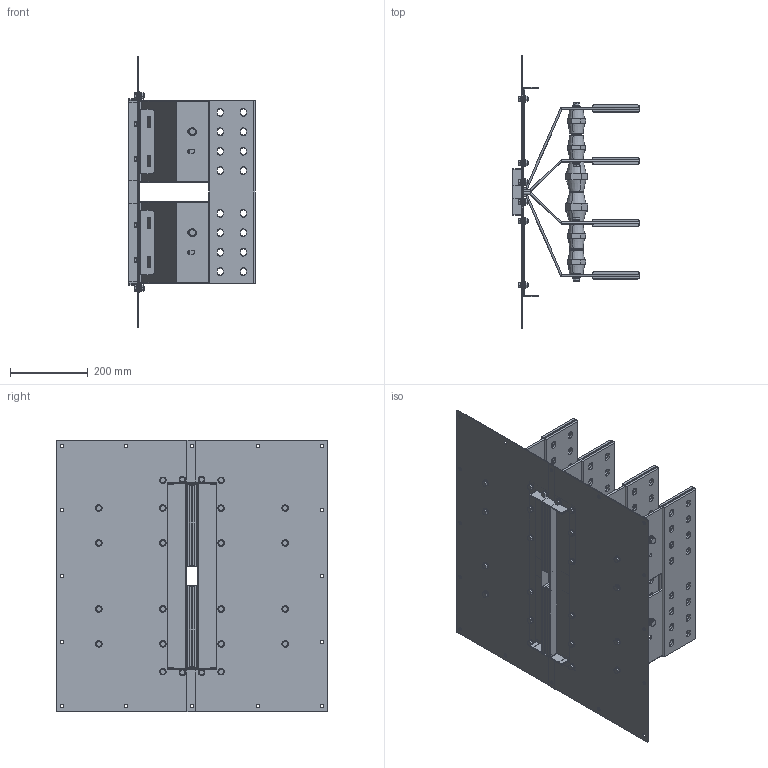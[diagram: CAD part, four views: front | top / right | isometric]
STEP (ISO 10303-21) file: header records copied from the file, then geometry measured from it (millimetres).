
FILE_DESCRIPTION(('CATIA V5 STEP','CAx-IF Rec.Pracs.--- Model Styling and Organization---1.5--- 2016-08-15','CAx-IF Rec.Pracs.---Supplemental Geometry---1.0---2011-11-01','CAx-IF Rec.Pracs.--- Composite Materials ---1.1---2010-07-15'),'2;1');
FILE_NAME('K:\COSCN 2011\32372311_RiduzioneSezioniBarre\03_Studio\__Modelli semplificati\XCP_UB semplificati per studi\XCP-S_UB_4C_Pe_CRT_Assieme\Al\XCP-S_UB_4C_Pe_D_Assieme - 4000A Al\XCP-S_UB_4C_Pe_D_Assieme - 4000A Al_CRT.stp','2025-05-12T12:44:43+00:00',('Utente Bticino'),('Bticino S.p.A.'),'CATIA Version 5-6 Release 2020 SP5','CATIA V5 STEP AP214 v2','none');
FILE_SCHEMA(('AUTOMOTIVE_DESIGN { 1 0 10303 214 1 1 1 1 }'));
Length unit declared in the file: millimetre
Products named in the file (30): XCP-S_UB_4C_Pe_D_Assieme - 4000A Al_CRT; XCP-S_UB_4C_Pe_D_PaccoBarre_4000A Al_CRT; XCP-S_UB_4C_Pe_D_Lamiere_4000A Al_CRT; XCP-S_UB_4C_Pe_D_PaccoBarre_4000A Al_CRT_1; XCP-S_UB_4C_Pe_D - 4000A Al_Bandelle parallelo_CRT; 130006; 130184; 00750033 - RONDELLA PIANA 4.8 D.12 UNI 6592 ZB; Ass_M10x25.1; 00740025 M10x25 UNI5739; Rondella spac M10 UNI 1751; 00750005; 130006_1; 00750033 - RONDELLA PIANA 4.8 D.12 UNI 6592 ZB_1; 130184_1; 130006_2; 00750033 - RONDELLA PIANA 4.8 D.12 UNI 6592 ZB_2; 130006_3; 130006_4; 130184_2; 00750033 - RONDELLA PIANA 4.8 D.12 UNI 6592 ZB_3; 130006_5; 00750033 - RONDELLA PIANA 4.8 D.12 UNI 6592 ZB_4; 130184_3; 130006_6; 00750033 - RONDELLA PIANA 4.8 D.12 UNI 6592 ZB_5; 130006_7; Ass Vite+dado M8; Steel hex flanged SCREW M12x16; Steel hex flanged NUT M8
Assembly tree (63 placements, depth 3):
  XCP-S_UB_4C_Pe_D_Assieme - 4000A Al_CRT
    XCP-S_UB_4C_Pe_D_PaccoBarre_4000A Al_CRT
    XCP-S_UB_4C_Pe_D_Lamiere_4000A Al_CRT
    XCP-S_UB_4C_Pe_D_PaccoBarre_4000A Al_CRT_1
    XCP-S_UB_4C_Pe_D - 4000A Al_Bandelle parallelo_CRT
    130006
    130184
    00750033 - RONDELLA PIANA 4.8 D.12 UNI 6592 ZB
    Ass_M10x25.1  x12
      00740025 M10x25 UNI5739
      Rondella spac M10 UNI 1751
      00750005
    130006_1
    00750033 - RONDELLA PIANA 4.8 D.12 UNI 6592 ZB_1
    130184_1
    130006_2
    00750033 - RONDELLA PIANA 4.8 D.12 UNI 6592 ZB_2
    130006_3
    130006_4
    130184_2
    00750033 - RONDELLA PIANA 4.8 D.12 UNI 6592 ZB_3
    130006_5
    00750033 - RONDELLA PIANA 4.8 D.12 UNI 6592 ZB_4
    130184_3
    130006_6
    00750033 - RONDELLA PIANA 4.8 D.12 UNI 6592 ZB_5
    130006_7
    Ass Vite+dado M8  x24
      Steel hex flanged SCREW M12x16
      Steel hex flanged NUT M8
Bounding box: 325 x 700 x 700 mm (x, y, z)
Volume: 8621971.9 mm3; surface area: 4126764 mm2
Topology: 132 solids, 132 shells, 3416 faces, 8496 edges, 5404 vertices
Faces by surface type: plane 1560, cylinder 1120, cone 336, bspline 288, torus 112
Entity records: 57570 total; most frequent: CARTESIAN_POINT 11216, ORIENTED_EDGE 10304, DIRECTION 7318, EDGE_CURVE 5152, VERTEX_POINT 3336, VECTOR 3164, LINE 3164, AXIS2_PLACEMENT_3D 3016
